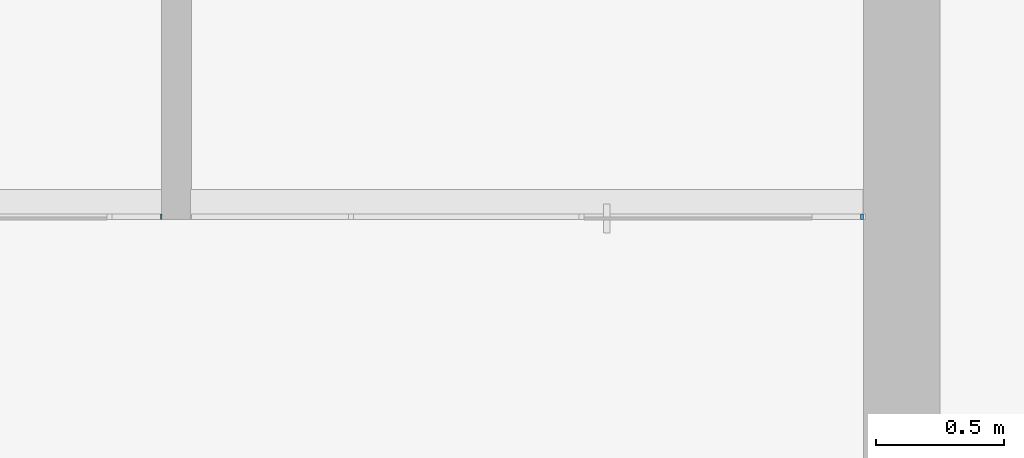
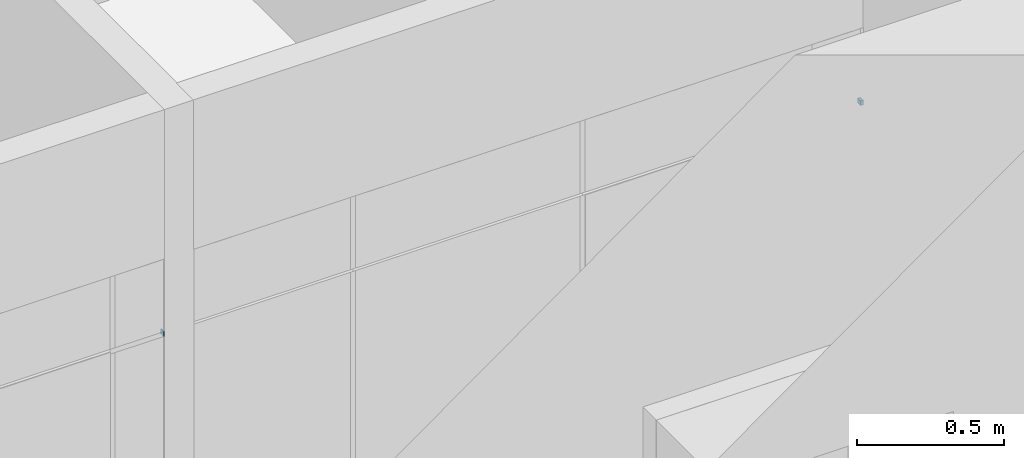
# One storey, part 7 of 49: 2 members, 2 elements without a shape of their own.
"""IFC2X3 building model written with IfcOpenShell, lengths in millimetres."""

from ifc_helpers import new_model, entity, si_unit, converted_unit, derived_unit, direction, frame, origin, origin_2d_with_axis, place, context, subcontext, project, spatial, rectangle, extrude, source, transform, mapped, material, type_object, type_shapes, element, aggregate, save


model = new_model("IFC2X3")

# Units and contexts
model_context = context("Model", 3, precision=0.01, world=origin(), true_north=direction((6.12303176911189e-17, 1.0)))
body_context = subcontext(model_context, "Body", "Model", "MODEL_VIEW")
ifc_project = project(units=[si_unit("LENGTHUNIT", "METRE", prefix="MILLI"), si_unit("AREAUNIT", "SQUARE_METRE"), si_unit("VOLUMEUNIT", "CUBIC_METRE"), converted_unit("PLANEANGLEUNIT", "DEGREE", entity("IfcRatioMeasure", 0.0174532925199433), si_unit("PLANEANGLEUNIT", "RADIAN"), dimensions=[0, 0, 0, 0, 0, 0, 0]), si_unit("MASSUNIT", "GRAM", prefix="KILO"), derived_unit("MASSDENSITYUNIT", [(si_unit("MASSUNIT", "GRAM", prefix="KILO"), 1), (si_unit("LENGTHUNIT", "METRE"), -3)]), si_unit("TIMEUNIT", "SECOND"), si_unit("FREQUENCYUNIT", "HERTZ"), si_unit("THERMODYNAMICTEMPERATUREUNIT", "DEGREE_CELSIUS"), derived_unit("THERMALTRANSMITTANCEUNIT", [(si_unit("MASSUNIT", "GRAM", prefix="KILO"), 1), (si_unit("THERMODYNAMICTEMPERATUREUNIT", "KELVIN"), -1), (si_unit("TIMEUNIT", "SECOND"), -3)]), derived_unit("VOLUMETRICFLOWRATEUNIT", [(si_unit("LENGTHUNIT", "METRE"), 3), (si_unit("TIMEUNIT", "SECOND"), -1)]), si_unit("ELECTRICCURRENTUNIT", "AMPERE"), si_unit("ELECTRICVOLTAGEUNIT", "VOLT"), si_unit("POWERUNIT", "WATT"), si_unit("FORCEUNIT", "NEWTON", prefix="KILO"), si_unit("ILLUMINANCEUNIT", "LUX"), si_unit("LUMINOUSFLUXUNIT", "LUMEN"), si_unit("LUMINOUSINTENSITYUNIT", "CANDELA"), derived_unit("USERDEFINED", [(si_unit("MASSUNIT", "GRAM", prefix="KILO"), -1), (si_unit("LENGTHUNIT", "METRE"), -2), (si_unit("TIMEUNIT", "SECOND"), 3), (si_unit("LUMINOUSFLUXUNIT", "LUMEN"), 1)]), derived_unit("LINEARVELOCITYUNIT", [(si_unit("LENGTHUNIT", "METRE"), 1), (si_unit("TIMEUNIT", "SECOND"), -1)]), si_unit("PRESSUREUNIT", "PASCAL"), derived_unit("USERDEFINED", [(si_unit("LENGTHUNIT", "METRE"), -2), (si_unit("MASSUNIT", "GRAM", prefix="KILO"), 1), (si_unit("TIMEUNIT", "SECOND"), -2)])], contexts=[model_context])

# Site, building, storey
site_placement = place(None, frame((-151.875543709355, 2715.0, 0.0)))
site = spatial("IfcSite", under=ifc_project, at=site_placement, Name="Surface", CompositionType="ELEMENT")
building_placement = place(site_placement, origin())
building = spatial("IfcBuilding", under=site, at=building_placement, CompositionType="ELEMENT")
storey_placement = place(building_placement, origin())
storey = spatial("IfcBuildingStorey", under=building, at=storey_placement, Name="1 korrus", CompositionType="ELEMENT", Elevation=3.0969999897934e-10)

# Curtain wall, member
curtain_wall_type_1 = type_object("IfcCurtainWallType", Name="Curtain Wall:Klaassein KLS-04", PredefinedType="NOTDEFINED")
curtain_wall_1_placement = place(storey_placement, origin())
curtain_wall_1 = element("IfcCurtainWall", 1, at=curtain_wall_1_placement, inside=storey, type_object=curtain_wall_type_1, Name="Curtain Wall:Klaassein KLS-04", ObjectType="Curtain Wall:Klaassein KLS-04")
ifc_material = material(Name="__Uks_hele tamm")
member_type_1 = type_object("IfcMemberType", Name="20 x 20mm", PredefinedType="MEMBER")
shared_shape_1 = source(origin(), body_context, "Body", "SweptSolid", [
    extrude(rectangle(XDim=20.0, YDim=20.0, at=origin_2d_with_axis()), frame((0.0, 0.0, -11.0), z_axis=(0.0, 0.0, 1.0), x_axis=(0.0, -1.0, 0.0)), (0.0, 0.0, 1.0), 10.9999999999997),
])
type_shapes(member_type_1, [shared_shape_1])
member_1_placement = place(storey_placement, frame((28846.0994792, 7770.0, 2090.0), z_axis=(1.0, 0.0, 0.0), x_axis=(0.0, 0.0, 1.0)))
member_1 = element("IfcMember", 2, at=member_1_placement, type_object=member_type_1, material=ifc_material, Name="Rectangular Mullion:20 x 20mm", ObjectType="20 x 20mm", context=body_context, shape_type="MappedRepresentation", body=[
    mapped(shared_shape_1, transform((0.0, 0.0, 0.0), scale=1.0)),
])
aggregate(curtain_wall_1, [member_1])

curtain_wall_type_2 = type_object("IfcCurtainWallType", Name="Curtain Wall:Klaassein KLS-03", PredefinedType="NOTDEFINED")
curtain_wall_2_placement = place(storey_placement, origin())
curtain_wall_2 = element("IfcCurtainWall", 3, at=curtain_wall_2_placement, inside=storey, type_object=curtain_wall_type_2, Name="Curtain Wall:Klaassein KLS-03", ObjectType="Curtain Wall:Klaassein KLS-03")
member_type_2 = type_object("IfcMemberType", Name="20 x 20mm", PredefinedType="MEMBER")
shared_shape_2 = source(origin(), body_context, "Body", "SweptSolid", [
    extrude(rectangle(XDim=20.0, YDim=20.0, at=origin_2d_with_axis()), frame((0.0, 0.0, -3.86940713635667), z_axis=(0.0, 0.0, 1.0), x_axis=(0.0, -1.0, 0.0)), (0.0, 0.0, 1.0), 3.86940713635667),
])
type_shapes(member_type_2, [shared_shape_2])
member_2_placement = place(storey_placement, frame((26105.0994792, 7770.0, 2090.0), z_axis=(1.0, 0.0, 0.0), x_axis=(0.0, 0.0, 1.0)))
member_2 = element("IfcMember", 4, at=member_2_placement, type_object=member_type_2, material=ifc_material, Name="Rectangular Mullion:20 x 20mm", ObjectType="20 x 20mm", context=body_context, shape_type="MappedRepresentation", body=[
    mapped(shared_shape_2, transform((0.0, 0.0, 0.0), scale=1.0)),
])
aggregate(curtain_wall_2, [member_2])

save(model, "model.ifc")
